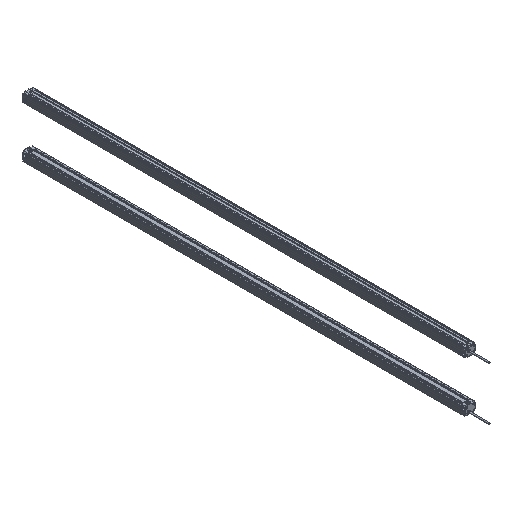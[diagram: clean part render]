
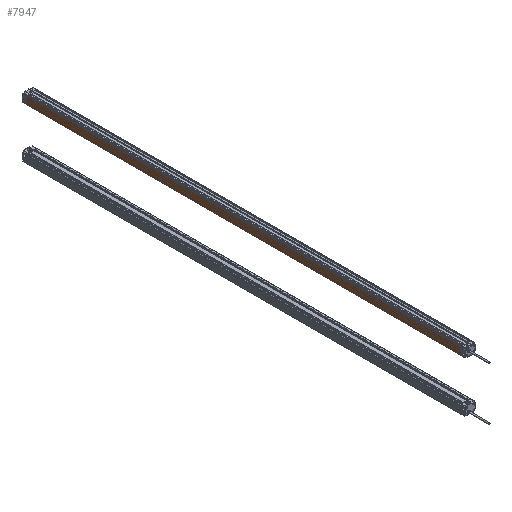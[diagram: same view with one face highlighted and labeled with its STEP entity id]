
A CAD part, isometric view. The second image highlights one B-rep face of the part: STEP entity #7947.
In plain terms, the highlighted planar face has unit normal (-1, 0, 0) as drawn and (1, 0, 0) by its records, which use the part's own axes.
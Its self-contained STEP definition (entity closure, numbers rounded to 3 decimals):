
#195 = DIRECTION ( 'NONE',  ( 0., 1., 0. ) ) ;
#571 = CARTESIAN_POINT ( 'NONE',  ( 12.5, -1040., 8.293 ) ) ;
#1046 = ORIENTED_EDGE ( 'NONE', *, *, #1082, .T. ) ;
#1082 = EDGE_CURVE ( 'NONE', #8389, #2411, #5572, .T. ) ;
#1520 = DIRECTION ( 'NONE',  ( 0., 0., -1. ) ) ;
#1682 = CARTESIAN_POINT ( 'NONE',  ( 12.5, -1040., -9.2 ) ) ;
#2061 = VERTEX_POINT ( 'NONE', #3563 ) ;
#2244 = PLANE ( 'NONE',  #5552 ) ;
#2385 = CARTESIAN_POINT ( 'NONE',  ( 12.5, -1040., 8.293 ) ) ;
#2411 = VERTEX_POINT ( 'NONE', #1682 ) ;
#2493 = DIRECTION ( 'NONE',  ( 0., 0., -1. ) ) ;
#3358 = VECTOR ( 'NONE', #1520, 1000. ) ;
#3431 = CARTESIAN_POINT ( 'NONE',  ( 12.5, -1040., 8.293 ) ) ;
#3438 = VECTOR ( 'NONE', #2493, 1000. ) ;
#3478 = ORIENTED_EDGE ( 'NONE', *, *, #7489, .F. ) ;
#3563 = CARTESIAN_POINT ( 'NONE',  ( 12.5, 0., 8.293 ) ) ;
#4509 = DIRECTION ( 'NONE',  ( 0., 1., 0. ) ) ;
#4742 = VERTEX_POINT ( 'NONE', #7648 ) ;
#4984 = FACE_OUTER_BOUND ( 'NONE', #6900, .T. ) ;
#5189 = VECTOR ( 'NONE', #195, 1000. ) ;
#5552 = AXIS2_PLACEMENT_3D ( 'NONE', #571, #8853, #10578 ) ;
#5572 = LINE ( 'NONE', #2385, #3358 ) ;
#5862 = CARTESIAN_POINT ( 'NONE',  ( 12.5, 0., 8.293 ) ) ;
#6142 = CARTESIAN_POINT ( 'NONE',  ( 12.5, -1040., -9.2 ) ) ;
#6424 = ORIENTED_EDGE ( 'NONE', *, *, #7792, .F. ) ;
#6900 = EDGE_LOOP ( 'NONE', ( #6424, #3478, #1046, #8442 ) ) ;
#7489 = EDGE_CURVE ( 'NONE', #8389, #2061, #10499, .T. ) ;
#7648 = CARTESIAN_POINT ( 'NONE',  ( 12.5, 0., -9.2 ) ) ;
#7792 = EDGE_CURVE ( 'NONE', #2061, #4742, #10188, .T. ) ;
#7947 = ADVANCED_FACE ( 'NONE', ( #4984 ), #2244, .T. ) ;
#8389 = VERTEX_POINT ( 'NONE', #10086 ) ;
#8442 = ORIENTED_EDGE ( 'NONE', *, *, #9767, .T. ) ;
#8853 = DIRECTION ( 'NONE',  ( 1., 0., 0. ) ) ;
#9258 = LINE ( 'NONE', #6142, #9819 ) ;
#9767 = EDGE_CURVE ( 'NONE', #2411, #4742, #9258, .T. ) ;
#9819 = VECTOR ( 'NONE', #4509, 1000. ) ;
#10086 = CARTESIAN_POINT ( 'NONE',  ( 12.5, -1040., 8.293 ) ) ;
#10188 = LINE ( 'NONE', #5862, #3438 ) ;
#10499 = LINE ( 'NONE', #3431, #5189 ) ;
#10578 = DIRECTION ( 'NONE',  ( 0., 0., -1. ) ) ;
